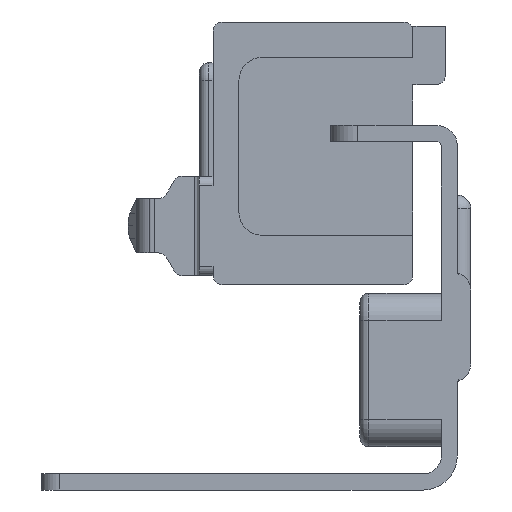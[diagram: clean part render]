
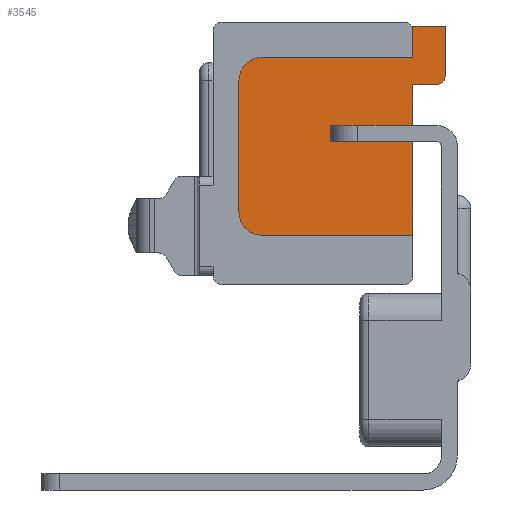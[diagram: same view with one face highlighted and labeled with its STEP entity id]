
A CAD part, left-side view. The second image highlights one B-rep face of the part: STEP entity #3545.
In plain terms, the highlighted planar face has unit normal (-1, 0, 0).
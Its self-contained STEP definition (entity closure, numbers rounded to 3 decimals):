
#114 = CARTESIAN_POINT ( 'NONE',  ( -39.3, 1.33, 81.555 ) ) ;
#141 = VERTEX_POINT ( 'NONE', #1809 ) ;
#281 = CARTESIAN_POINT ( 'NONE',  ( -39.3, 14., 77.06 ) ) ;
#299 = CARTESIAN_POINT ( 'NONE',  ( -39.3, 1.33, 88.025 ) ) ;
#350 = DIRECTION ( 'NONE',  ( -1., 0., 0. ) ) ;
#396 = DIRECTION ( 'NONE',  ( 0., 0., 1. ) ) ;
#463 = CARTESIAN_POINT ( 'NONE',  ( -39.3, 14., 75.29 ) ) ;
#544 = EDGE_CURVE ( 'NONE', #994, #5431, #3240, .T. ) ;
#550 = EDGE_CURVE ( 'NONE', #5929, #994, #1789, .T. ) ;
#677 = VECTOR ( 'NONE', #6862, 1000. ) ;
#713 = LINE ( 'NONE', #6894, #6330 ) ;
#736 = LINE ( 'NONE', #2495, #6354 ) ;
#907 = CIRCLE ( 'NONE', #4705, 1. ) ;
#937 = CARTESIAN_POINT ( 'NONE',  ( -39.3, 4.9, 88.025 ) ) ;
#968 = EDGE_LOOP ( 'NONE', ( #4808, #5882, #6076, #5680, #6033, #6278, #2152, #6371, #5941, #5520, #5191, #2814, #4248, #4509, #5030 ) ) ;
#981 = DIRECTION ( 'NONE',  ( 1., 0., 0. ) ) ;
#994 = VERTEX_POINT ( 'NONE', #1120 ) ;
#1008 = DIRECTION ( 'NONE',  ( 0., 1., 0. ) ) ;
#1066 = VECTOR ( 'NONE', #5701, 1000. ) ;
#1093 = EDGE_CURVE ( 'NONE', #3945, #4737, #3320, .T. ) ;
#1120 = CARTESIAN_POINT ( 'NONE',  ( -39.3, 1.33, 88.025 ) ) ;
#1149 = CARTESIAN_POINT ( 'NONE',  ( -39.3, 24.13, 67.425 ) ) ;
#1171 = LINE ( 'NONE', #1607, #2462 ) ;
#1183 = AXIS2_PLACEMENT_3D ( 'NONE', #1990, #1923, #1887 ) ;
#1245 = EDGE_CURVE ( 'NONE', #141, #4547, #1171, .T. ) ;
#1334 = EDGE_CURVE ( 'NONE', #3187, #6369, #1936, .T. ) ;
#1387 = EDGE_CURVE ( 'NONE', #2224, #6080, #5761, .T. ) ;
#1538 = CARTESIAN_POINT ( 'NONE',  ( -39.3, 20.06, 81.555 ) ) ;
#1607 = CARTESIAN_POINT ( 'NONE',  ( -39.3, 4.9, 84.555 ) ) ;
#1608 = VECTOR ( 'NONE', #396, 1000. ) ;
#1665 = VERTEX_POINT ( 'NONE', #281 ) ;
#1789 = LINE ( 'NONE', #114, #1608 ) ;
#1809 = CARTESIAN_POINT ( 'NONE',  ( -39.3, 4.9, 84.555 ) ) ;
#1882 = AXIS2_PLACEMENT_3D ( 'NONE', #3746, #3657, #2090 ) ;
#1887 = DIRECTION ( 'NONE',  ( 0., 0., 1. ) ) ;
#1923 = DIRECTION ( 'NONE',  ( 1., 0., 0. ) ) ;
#1936 = LINE ( 'NONE', #1538, #6126 ) ;
#1978 = VECTOR ( 'NONE', #4593, 1000. ) ;
#1990 = CARTESIAN_POINT ( 'NONE',  ( -39.3, 21.53, 73.625 ) ) ;
#2088 = CARTESIAN_POINT ( 'NONE',  ( -39.3, 4.9, 81.555 ) ) ;
#2090 = DIRECTION ( 'NONE',  ( 0., 0., 1. ) ) ;
#2152 = ORIENTED_EDGE ( 'NONE', *, *, #4425, .F. ) ;
#2202 = LINE ( 'NONE', #3726, #3816 ) ;
#2224 = VERTEX_POINT ( 'NONE', #463 ) ;
#2266 = PLANE ( 'NONE',  #1183 ) ;
#2336 = CARTESIAN_POINT ( 'NONE',  ( -39.3, 21.63, 84.555 ) ) ;
#2462 = VECTOR ( 'NONE', #1008, 1000. ) ;
#2494 = CARTESIAN_POINT ( 'NONE',  ( -39.3, 21.63, 64.925 ) ) ;
#2495 = CARTESIAN_POINT ( 'NONE',  ( -39.3, 4.9, 73.625 ) ) ;
#2799 = LINE ( 'NONE', #1149, #5351 ) ;
#2814 = ORIENTED_EDGE ( 'NONE', *, *, #4627, .T. ) ;
#3187 = VERTEX_POINT ( 'NONE', #2088 ) ;
#3228 = VECTOR ( 'NONE', #5120, 1000. ) ;
#3240 = LINE ( 'NONE', #299, #677 ) ;
#3320 = CIRCLE ( 'NONE', #1882, 2.5 ) ;
#3539 = LINE ( 'NONE', #4065, #6247 ) ;
#3545 = ADVANCED_FACE ( 'NONE', ( #4464 ), #2266, .F. ) ;
#3570 = CARTESIAN_POINT ( 'NONE',  ( -39.3, 24.13, 82.055 ) ) ;
#3631 = CARTESIAN_POINT ( 'NONE',  ( -39.3, 21.63, 82.055 ) ) ;
#3657 = DIRECTION ( 'NONE',  ( -1., 0., 0. ) ) ;
#3726 = CARTESIAN_POINT ( 'NONE',  ( -39.3, 4.9, 64.925 ) ) ;
#3746 = CARTESIAN_POINT ( 'NONE',  ( -39.3, 21.63, 67.425 ) ) ;
#3816 = VECTOR ( 'NONE', #6990, 1000. ) ;
#3936 = CARTESIAN_POINT ( 'NONE',  ( -39.3, 12.15, 75.29 ) ) ;
#3945 = VERTEX_POINT ( 'NONE', #5878 ) ;
#3959 = DIRECTION ( 'NONE',  ( 0., -1., 0. ) ) ;
#3975 = LINE ( 'NONE', #4071, #1066 ) ;
#4033 = CARTESIAN_POINT ( 'NONE',  ( -39.3, 12.42, 77.06 ) ) ;
#4065 = CARTESIAN_POINT ( 'NONE',  ( -39.3, 21.53, 64.925 ) ) ;
#4071 = CARTESIAN_POINT ( 'NONE',  ( -39.3, 14., 75.29 ) ) ;
#4178 = DIRECTION ( 'NONE',  ( 0., 0., 1. ) ) ;
#4207 = VERTEX_POINT ( 'NONE', #5629 ) ;
#4248 = ORIENTED_EDGE ( 'NONE', *, *, #5319, .F. ) ;
#4252 = EDGE_CURVE ( 'NONE', #4207, #1665, #4466, .T. ) ;
#4258 = CARTESIAN_POINT ( 'NONE',  ( -39.3, 2.33, 82.555 ) ) ;
#4298 = CARTESIAN_POINT ( 'NONE',  ( -39.3, 4.9, 75.29 ) ) ;
#4384 = EDGE_CURVE ( 'NONE', #4547, #4722, #7022, .T. ) ;
#4410 = DIRECTION ( 'NONE',  ( 0., 0., -1. ) ) ;
#4425 = EDGE_CURVE ( 'NONE', #141, #5431, #713, .T. ) ;
#4464 = FACE_OUTER_BOUND ( 'NONE', #968, .T. ) ;
#4466 = LINE ( 'NONE', #4033, #1978 ) ;
#4475 = VERTEX_POINT ( 'NONE', #4985 ) ;
#4509 = ORIENTED_EDGE ( 'NONE', *, *, #1387, .F. ) ;
#4547 = VERTEX_POINT ( 'NONE', #2336 ) ;
#4593 = DIRECTION ( 'NONE',  ( 0., 1., 0. ) ) ;
#4623 = DIRECTION ( 'NONE',  ( 0., -1., 0. ) ) ;
#4627 = EDGE_CURVE ( 'NONE', #4737, #4475, #3539, .T. ) ;
#4705 = AXIS2_PLACEMENT_3D ( 'NONE', #4258, #981, #4807 ) ;
#4722 = VERTEX_POINT ( 'NONE', #3570 ) ;
#4737 = VERTEX_POINT ( 'NONE', #2494 ) ;
#4807 = DIRECTION ( 'NONE',  ( 0., 0., 1. ) ) ;
#4808 = ORIENTED_EDGE ( 'NONE', *, *, #4252, .F. ) ;
#4849 = EDGE_CURVE ( 'NONE', #5929, #6369, #907, .T. ) ;
#4886 = EDGE_CURVE ( 'NONE', #4207, #3187, #2202, .T. ) ;
#4968 = DIRECTION ( 'NONE',  ( 0., 0., 1. ) ) ;
#4985 = CARTESIAN_POINT ( 'NONE',  ( -39.3, 4.9, 64.925 ) ) ;
#5030 = ORIENTED_EDGE ( 'NONE', *, *, #5275, .T. ) ;
#5038 = EDGE_CURVE ( 'NONE', #4722, #3945, #2799, .T. ) ;
#5120 = DIRECTION ( 'NONE',  ( 0., -1., 0. ) ) ;
#5191 = ORIENTED_EDGE ( 'NONE', *, *, #1093, .T. ) ;
#5275 = EDGE_CURVE ( 'NONE', #2224, #1665, #3975, .T. ) ;
#5319 = EDGE_CURVE ( 'NONE', #6080, #4475, #736, .T. ) ;
#5351 = VECTOR ( 'NONE', #4410, 1000. ) ;
#5431 = VERTEX_POINT ( 'NONE', #937 ) ;
#5520 = ORIENTED_EDGE ( 'NONE', *, *, #5038, .T. ) ;
#5626 = CARTESIAN_POINT ( 'NONE',  ( -39.3, 2.33, 81.555 ) ) ;
#5629 = CARTESIAN_POINT ( 'NONE',  ( -39.3, 4.9, 77.06 ) ) ;
#5680 = ORIENTED_EDGE ( 'NONE', *, *, #4849, .F. ) ;
#5701 = DIRECTION ( 'NONE',  ( 0., 0., 1. ) ) ;
#5761 = LINE ( 'NONE', #3936, #3228 ) ;
#5786 = CARTESIAN_POINT ( 'NONE',  ( -39.3, 1.33, 82.555 ) ) ;
#5878 = CARTESIAN_POINT ( 'NONE',  ( -39.3, 24.13, 67.425 ) ) ;
#5882 = ORIENTED_EDGE ( 'NONE', *, *, #4886, .T. ) ;
#5929 = VERTEX_POINT ( 'NONE', #5786 ) ;
#5941 = ORIENTED_EDGE ( 'NONE', *, *, #4384, .T. ) ;
#6033 = ORIENTED_EDGE ( 'NONE', *, *, #550, .T. ) ;
#6076 = ORIENTED_EDGE ( 'NONE', *, *, #1334, .T. ) ;
#6080 = VERTEX_POINT ( 'NONE', #4298 ) ;
#6126 = VECTOR ( 'NONE', #3959, 1000. ) ;
#6247 = VECTOR ( 'NONE', #4623, 1000. ) ;
#6278 = ORIENTED_EDGE ( 'NONE', *, *, #544, .T. ) ;
#6302 = DIRECTION ( 'NONE',  ( 0., 0., -1. ) ) ;
#6330 = VECTOR ( 'NONE', #4968, 1000. ) ;
#6354 = VECTOR ( 'NONE', #6302, 1000. ) ;
#6369 = VERTEX_POINT ( 'NONE', #5626 ) ;
#6371 = ORIENTED_EDGE ( 'NONE', *, *, #1245, .T. ) ;
#6801 = AXIS2_PLACEMENT_3D ( 'NONE', #3631, #350, #4178 ) ;
#6862 = DIRECTION ( 'NONE',  ( 0., 1., 0. ) ) ;
#6894 = CARTESIAN_POINT ( 'NONE',  ( -39.3, 4.9, 88.025 ) ) ;
#6990 = DIRECTION ( 'NONE',  ( 0., 0., 1. ) ) ;
#7022 = CIRCLE ( 'NONE', #6801, 2.5 ) ;
